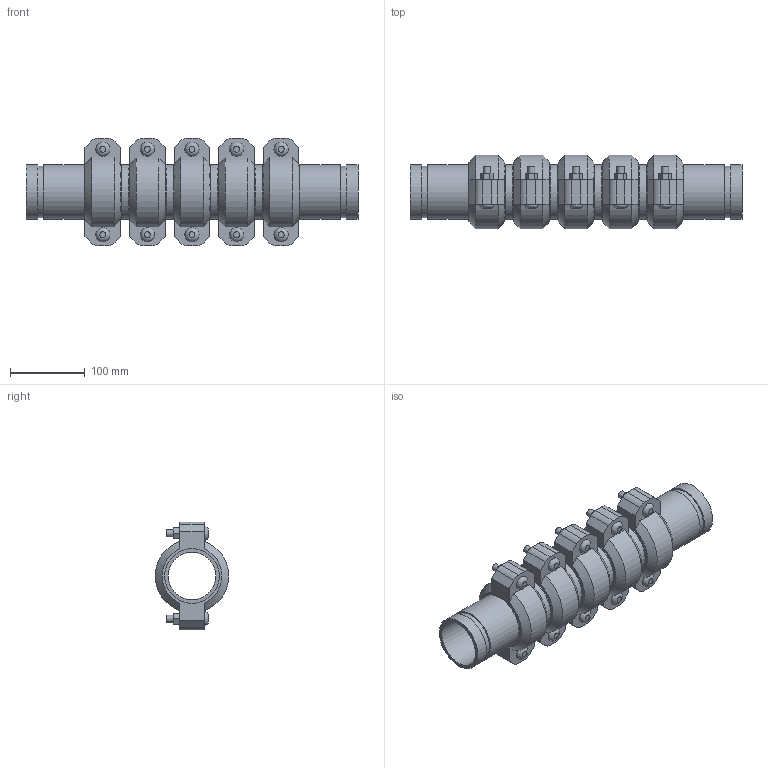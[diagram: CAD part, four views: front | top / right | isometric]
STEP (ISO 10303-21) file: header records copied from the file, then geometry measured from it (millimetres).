
FILE_DESCRIPTION(/* description */ ('VIC SS EXPANSION JOINT 5 COUPLINGS NEUTRAL STYLE 155P (OGS) (POTABLE WATER) ','CAx-IF Rec.Pracs.---Representation and Presentation of Product Manufacturing Information (PMI)---4.0---2014-10-13'),/* implementation_level */ '2;1');
FILE_NAME(/* name */ 'C:\Users\kkamble\AppData\Roaming\Autodesk\ApplicationPlugins\Victaulic.Temp\A327\Victaulic_SS_Expansion Joint_Neutral_5 Couplings_Style 155P (OGS)-Potable Water_5 Coup_Neut_2.5 (65).stp',/* time_stamp */ '2021-07-16T16:34:40+05:00',/* author */ ('kkamble'),/* organization */ ('Victaulic'),/* preprocessor_version */ 'ST-DEVELOPER v17.2',/* originating_system */ 'Autodesk Inventor 2019',/* authorisation */ '');
FILE_SCHEMA (('AP242_MANAGED_MODEL_BASED_3D_ENGINEERING_MIM_LF { 1 0 10303 442 1 1 4 }'));
Length unit declared in the file: inch
Products named in the file (4): 155P-02.5; Nipple-02.5; Nipple-02.5_1; 075-02.5
Assembly tree (11 placements, depth 2):
  155P-02.5
    Nipple-02.5  x2
    Nipple-02.5_1  x4
    075-02.5  x5
Bounding box: 443.74 x 98.22 x 144.27 mm (x, y, z)
Volume: 1478215.5 mm3; surface area: 426955.9 mm2
Topology: 11 solids, 21 shells, 357 faces, 845 edges, 594 vertices
Faces by surface type: plane 216, cylinder 111, cone 20, bspline 10
Full cylindrical faces by diameter (mm): 9.525 x20, 11.43 x10, 63.475 x6, 66.675 x5, 69.088 x12, 73.025 x28
Entity records: 2801 total; most frequent: CARTESIAN_POINT 495, DIRECTION 465, ORIENTED_EDGE 386, EDGE_CURVE 193, AXIS2_PLACEMENT_3D 186, VERTEX_POINT 138, EDGE_LOOP 107, LINE 93
